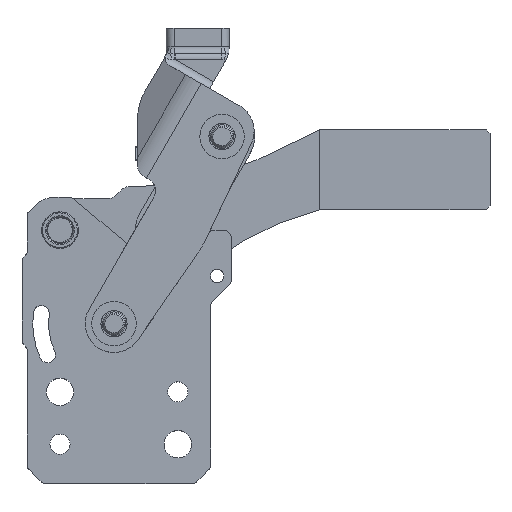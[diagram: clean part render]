
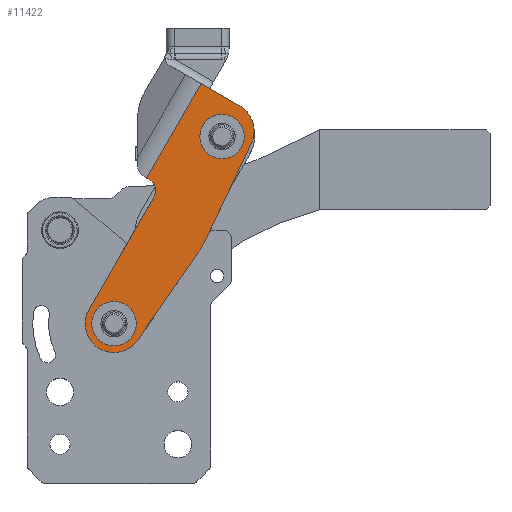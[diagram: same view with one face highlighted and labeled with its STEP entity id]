
A CAD part, top view. The second image highlights one B-rep face of the part: STEP entity #11422.
In plain terms, the highlighted planar face has unit normal (0, 0, 1) as drawn and (0, 0, -1) by its records, which use the part's own axes.
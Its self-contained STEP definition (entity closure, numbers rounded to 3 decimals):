
#259 = ORIENTED_EDGE ( 'NONE', *, *, #11260, .T. ) ;
#292 = CIRCLE ( 'NONE', #3090, 8.5 ) ;
#474 = CARTESIAN_POINT ( 'NONE',  ( 16.991, 54.5, -21.5 ) ) ;
#585 = VECTOR ( 'NONE', #842, 1000. ) ;
#717 = AXIS2_PLACEMENT_3D ( 'NONE', #17173, #19143, #5537 ) ;
#806 = DIRECTION ( 'NONE',  ( 0., 0., 1. ) ) ;
#842 = DIRECTION ( 'NONE',  ( 0., 1., 0. ) ) ;
#847 = VERTEX_POINT ( 'NONE', #17992 ) ;
#1165 = DIRECTION ( 'NONE',  ( 0., 0., 1. ) ) ;
#2044 = CARTESIAN_POINT ( 'NONE',  ( 0., 96., -21.5 ) ) ;
#2307 = CARTESIAN_POINT ( 'NONE',  ( -10.964, 85.893, -21.5 ) ) ;
#2383 = LINE ( 'NONE', #12240, #585 ) ;
#2453 = FACE_BOUND ( 'NONE', #9592, .T. ) ;
#2603 = EDGE_CURVE ( 'NONE', #9063, #21502, #10136, .T. ) ;
#2709 = CARTESIAN_POINT ( 'NONE',  ( 0., 0., -21.5 ) ) ;
#2737 = EDGE_LOOP ( 'NONE', ( #5938, #15339 ) ) ;
#2760 = ORIENTED_EDGE ( 'NONE', *, *, #16763, .T. ) ;
#2772 = CARTESIAN_POINT ( 'NONE',  ( 0., 82.5, -21.5 ) ) ;
#2899 = DIRECTION ( 'NONE',  ( 0., -1., 0. ) ) ;
#2977 = EDGE_CURVE ( 'NONE', #14291, #15146, #16180, .T. ) ;
#2983 = CARTESIAN_POINT ( 'NONE',  ( 0., 82.5, -21.5 ) ) ;
#2985 = CIRCLE ( 'NONE', #16639, 8.5 ) ;
#3090 = AXIS2_PLACEMENT_3D ( 'NONE', #2772, #21191, #7707 ) ;
#4040 = CARTESIAN_POINT ( 'NONE',  ( 11., 0., -21.5 ) ) ;
#4081 = CIRCLE ( 'NONE', #10058, 40. ) ;
#4214 = CARTESIAN_POINT ( 'NONE',  ( 0., 0., -21.5 ) ) ;
#4231 = CIRCLE ( 'NONE', #717, 11. ) ;
#4573 = VERTEX_POINT ( 'NONE', #9885 ) ;
#4790 = AXIS2_PLACEMENT_3D ( 'NONE', #9509, #1165, #11777 ) ;
#4807 = AXIS2_PLACEMENT_3D ( 'NONE', #2983, #9686, #16374 ) ;
#4990 = CARTESIAN_POINT ( 'NONE',  ( 8.5, 0., -21.5 ) ) ;
#5267 = VERTEX_POINT ( 'NONE', #4040 ) ;
#5308 = CARTESIAN_POINT ( 'NONE',  ( -8.5, 0., -21.5 ) ) ;
#5370 = VERTEX_POINT ( 'NONE', #16518 ) ;
#5485 = ORIENTED_EDGE ( 'NONE', *, *, #11481, .T. ) ;
#5537 = DIRECTION ( 'NONE',  ( 1., 0., 0. ) ) ;
#5548 = VERTEX_POINT ( 'NONE', #2044 ) ;
#5726 = DIRECTION ( 'NONE',  ( 0., 0., 1. ) ) ;
#5938 = ORIENTED_EDGE ( 'NONE', *, *, #17724, .T. ) ;
#6380 = VECTOR ( 'NONE', #2899, 1000. ) ;
#6591 = CARTESIAN_POINT ( 'NONE',  ( -10.964, -0.893, -21.5 ) ) ;
#6785 = DIRECTION ( 'NONE',  ( 1., 0., 0. ) ) ;
#7151 = DIRECTION ( 'NONE',  ( 0., 0., 1. ) ) ;
#7276 = VECTOR ( 'NONE', #18992, 1000. ) ;
#7352 = VECTOR ( 'NONE', #11215, 1000. ) ;
#7707 = DIRECTION ( 'NONE',  ( 1., 0., 0. ) ) ;
#7943 = CIRCLE ( 'NONE', #4790, 8.5 ) ;
#7946 = LINE ( 'NONE', #14649, #8142 ) ;
#8142 = VECTOR ( 'NONE', #17722, 1000. ) ;
#8198 = ORIENTED_EDGE ( 'NONE', *, *, #2603, .F. ) ;
#8249 = CARTESIAN_POINT ( 'NONE',  ( -14.235, 45.749, -21.5 ) ) ;
#8269 = CARTESIAN_POINT ( 'NONE',  ( -8.5, 82.5, -21.5 ) ) ;
#8433 = EDGE_CURVE ( 'NONE', #8472, #9582, #2985, .T. ) ;
#8472 = VERTEX_POINT ( 'NONE', #5308 ) ;
#9063 = VERTEX_POINT ( 'NONE', #2307 ) ;
#9156 = FACE_BOUND ( 'NONE', #2737, .T. ) ;
#9509 = CARTESIAN_POINT ( 'NONE',  ( 0., 0., -21.5 ) ) ;
#9533 = VECTOR ( 'NONE', #18792, 1000. ) ;
#9582 = VERTEX_POINT ( 'NONE', #4990 ) ;
#9592 = EDGE_LOOP ( 'NONE', ( #11519, #10416 ) ) ;
#9668 = LINE ( 'NONE', #9787, #7352 ) ;
#9686 = DIRECTION ( 'NONE',  ( 0., 0., 1. ) ) ;
#9787 = CARTESIAN_POINT ( 'NONE',  ( 21., 54.5, -21.5 ) ) ;
#9810 = CIRCLE ( 'NONE', #12241, 11. ) ;
#9885 = CARTESIAN_POINT ( 'NONE',  ( 16., 54.5, -21.5 ) ) ;
#10012 = CIRCLE ( 'NONE', #20897, 5. ) ;
#10058 = AXIS2_PLACEMENT_3D ( 'NONE', #13473, #18323, #6785 ) ;
#10136 = LINE ( 'NONE', #11666, #9533 ) ;
#10325 = CARTESIAN_POINT ( 'NONE',  ( 0., 96., -21.5 ) ) ;
#10416 = ORIENTED_EDGE ( 'NONE', *, *, #16245, .T. ) ;
#10662 = CARTESIAN_POINT ( 'NONE',  ( 0., 85., -21.5 ) ) ;
#10726 = CARTESIAN_POINT ( 'NONE',  ( 16.991, 96., -21.5 ) ) ;
#11144 = ORIENTED_EDGE ( 'NONE', *, *, #19114, .F. ) ;
#11178 = ORIENTED_EDGE ( 'NONE', *, *, #11390, .F. ) ;
#11215 = DIRECTION ( 'NONE',  ( -1., 0., 0. ) ) ;
#11237 = CARTESIAN_POINT ( 'NONE',  ( 16.991, 0., -21.5 ) ) ;
#11260 = EDGE_CURVE ( 'NONE', #4573, #13455, #10012, .T. ) ;
#11390 = EDGE_CURVE ( 'NONE', #5548, #9063, #9810, .T. ) ;
#11422 = ADVANCED_FACE ( 'NONE', ( #9156, #17484, #2453 ), #15837, .F. ) ;
#11481 = EDGE_CURVE ( 'NONE', #15146, #4573, #9668, .T. ) ;
#11519 = ORIENTED_EDGE ( 'NONE', *, *, #8433, .T. ) ;
#11666 = CARTESIAN_POINT ( 'NONE',  ( -10.964, 85.893, -21.5 ) ) ;
#11777 = DIRECTION ( 'NONE',  ( 1., 0., 0. ) ) ;
#11912 = CARTESIAN_POINT ( 'NONE',  ( 11., 49.5, -21.5 ) ) ;
#12240 = CARTESIAN_POINT ( 'NONE',  ( 11., 0., -21.5 ) ) ;
#12241 = AXIS2_PLACEMENT_3D ( 'NONE', #10662, #5726, #17364 ) ;
#12554 = EDGE_CURVE ( 'NONE', #16593, #5267, #4231, .T. ) ;
#12783 = ORIENTED_EDGE ( 'NONE', *, *, #15998, .F. ) ;
#13455 = VERTEX_POINT ( 'NONE', #11912 ) ;
#13473 = CARTESIAN_POINT ( 'NONE',  ( 25.633, 42.5, -21.5 ) ) ;
#13552 = CIRCLE ( 'NONE', #4807, 8.5 ) ;
#13734 = CARTESIAN_POINT ( 'NONE',  ( 16., 49.5, -21.5 ) ) ;
#14291 = VERTEX_POINT ( 'NONE', #10726 ) ;
#14649 = CARTESIAN_POINT ( 'NONE',  ( -14.235, 39.251, -21.5 ) ) ;
#14828 = EDGE_CURVE ( 'NONE', #5370, #16593, #7946, .T. ) ;
#15120 = ORIENTED_EDGE ( 'NONE', *, *, #2977, .T. ) ;
#15146 = VERTEX_POINT ( 'NONE', #474 ) ;
#15339 = ORIENTED_EDGE ( 'NONE', *, *, #16665, .T. ) ;
#15524 = ORIENTED_EDGE ( 'NONE', *, *, #14828, .F. ) ;
#15708 = LINE ( 'NONE', #10325, #7276 ) ;
#15837 = PLANE ( 'NONE',  #17165 ) ;
#15940 = DIRECTION ( 'NONE',  ( 1., 0., 0. ) ) ;
#15983 = DIRECTION ( 'NONE',  ( 1., 0., 0. ) ) ;
#15998 = EDGE_CURVE ( 'NONE', #5267, #13455, #2383, .T. ) ;
#16180 = LINE ( 'NONE', #11237, #6380 ) ;
#16245 = EDGE_CURVE ( 'NONE', #9582, #8472, #7943, .T. ) ;
#16374 = DIRECTION ( 'NONE',  ( 1., 0., 0. ) ) ;
#16518 = CARTESIAN_POINT ( 'NONE',  ( -14.235, 39.251, -21.5 ) ) ;
#16593 = VERTEX_POINT ( 'NONE', #6591 ) ;
#16639 = AXIS2_PLACEMENT_3D ( 'NONE', #2709, #18163, #15983 ) ;
#16665 = EDGE_CURVE ( 'NONE', #847, #19785, #13552, .T. ) ;
#16763 = EDGE_CURVE ( 'NONE', #5548, #14291, #15708, .T. ) ;
#17165 = AXIS2_PLACEMENT_3D ( 'NONE', #4214, #806, #15940 ) ;
#17173 = CARTESIAN_POINT ( 'NONE',  ( 0., 0., -21.5 ) ) ;
#17364 = DIRECTION ( 'NONE',  ( 1., 0., 0. ) ) ;
#17484 = FACE_OUTER_BOUND ( 'NONE', #18855, .T. ) ;
#17722 = DIRECTION ( 'NONE',  ( 0.081, -0.997, 0. ) ) ;
#17724 = EDGE_CURVE ( 'NONE', #19785, #847, #292, .T. ) ;
#17992 = CARTESIAN_POINT ( 'NONE',  ( 8.5, 82.5, -21.5 ) ) ;
#18163 = DIRECTION ( 'NONE',  ( 0., 0., 1. ) ) ;
#18323 = DIRECTION ( 'NONE',  ( 0., 0., 1. ) ) ;
#18792 = DIRECTION ( 'NONE',  ( -0.081, -0.997, 0. ) ) ;
#18855 = EDGE_LOOP ( 'NONE', ( #21682, #15524, #11144, #8198, #11178, #2760, #15120, #5485, #259, #12783 ) ) ;
#18992 = DIRECTION ( 'NONE',  ( 1., 0., 0. ) ) ;
#19114 = EDGE_CURVE ( 'NONE', #21502, #5370, #4081, .T. ) ;
#19143 = DIRECTION ( 'NONE',  ( 0., 0., 1. ) ) ;
#19785 = VERTEX_POINT ( 'NONE', #8269 ) ;
#20534 = DIRECTION ( 'NONE',  ( 1., 0., 0. ) ) ;
#20897 = AXIS2_PLACEMENT_3D ( 'NONE', #13734, #7151, #20534 ) ;
#21191 = DIRECTION ( 'NONE',  ( 0., 0., 1. ) ) ;
#21502 = VERTEX_POINT ( 'NONE', #8249 ) ;
#21682 = ORIENTED_EDGE ( 'NONE', *, *, #12554, .F. ) ;
